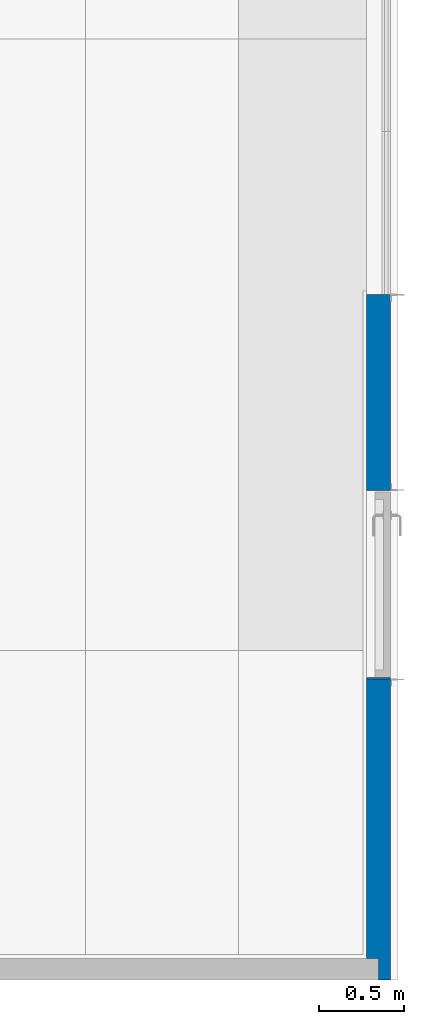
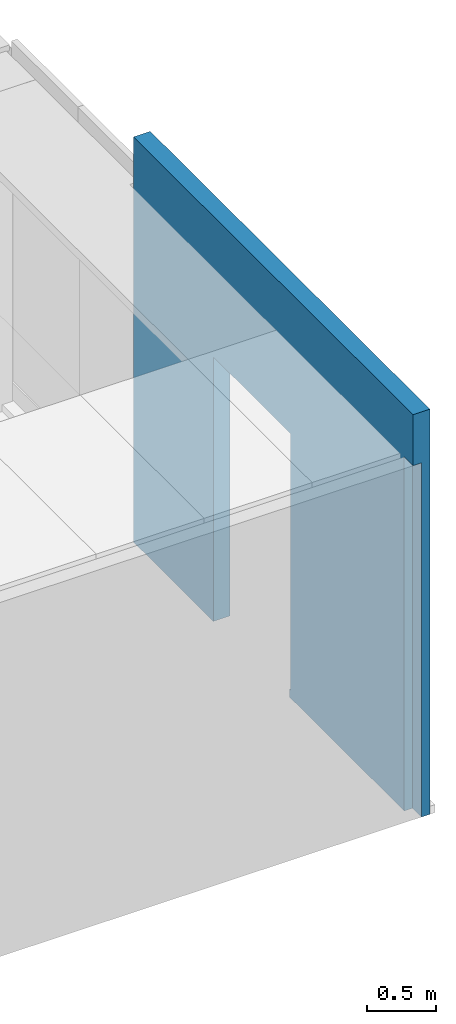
# One storey, part 9 of 12: 1 wall, 1 opening.
"""IFC2X3 building model written with IfcOpenShell, lengths in millimetres."""

from ifc_helpers import new_model, entity, si_unit, converted_unit, derived_unit, direction, frame, frame_2d, origin_with_axes, place, context, subcontext, project, spatial, rectangle, extrude, faceted_brep, material, layer, layer_set, type_object, element, save


model = new_model("IFC2X3")

# Units and contexts
model_context = context("Model", 3, precision=0.01, world=frame((0.0, 4.29681676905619e-09, 0.0)), true_north=direction((6.12323399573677e-17, 1.0)))
plan_context = context("Plan", 3, precision=0.01, world=frame((0.0, 4.29681676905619e-09, 0.0)), true_north=direction((6.12323399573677e-17, 1.0)))
body_context = subcontext(model_context, "Body", "Model", "MODEL_VIEW")
ifc_project = project(units=[converted_unit("PLANEANGLEUNIT", "DEGREE", entity("IfcPositiveLengthMeasure", 0.0174532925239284), si_unit("PLANEANGLEUNIT", "RADIAN"), dimensions=[0, 0, 0, 0, 0, 0, 0]), si_unit("AREAUNIT", "SQUARE_METRE"), si_unit("LENGTHUNIT", "METRE", prefix="MILLI"), si_unit("MASSUNIT", "GRAM", prefix="KILO"), si_unit("POWERUNIT", "WATT"), si_unit("PRESSUREUNIT", "PASCAL", prefix="KILO"), si_unit("FORCEUNIT", "NEWTON", prefix="KILO"), si_unit("ELECTRICVOLTAGEUNIT", "VOLT"), si_unit("ELECTRICCURRENTUNIT", "AMPERE"), si_unit("THERMODYNAMICTEMPERATUREUNIT", "DEGREE_CELSIUS"), si_unit("TIMEUNIT", "SECOND"), si_unit("VOLUMEUNIT", "CUBIC_METRE"), derived_unit("LINEARVELOCITYUNIT", [(si_unit("LENGTHUNIT", "METRE"), 1), (si_unit("TIMEUNIT", "SECOND"), -1)]), derived_unit("VOLUMETRICFLOWRATEUNIT", [(si_unit("VOLUMEUNIT", "CUBIC_METRE"), 1), (si_unit("TIMEUNIT", "SECOND"), -1)]), derived_unit("THERMALTRANSMITTANCEUNIT", [(si_unit("POWERUNIT", "WATT"), 1), (si_unit("THERMODYNAMICTEMPERATUREUNIT", "KELVIN"), -1), (si_unit("AREAUNIT", "SQUARE_METRE"), -1)]), derived_unit("SOUNDPRESSUREUNIT", [(si_unit("PRESSUREUNIT", "PASCAL"), 1)])], contexts=[model_context, plan_context])

# Site, building, storey
site_placement = place(None, origin_with_axes())
site = spatial("IfcSite", under=ifc_project, at=site_placement, Name="ENGM", CompositionType="ELEMENT")
building_placement = place(site_placement, origin_with_axes())
building = spatial("IfcBuilding", under=site, at=building_placement, Name="TH", CompositionType="ELEMENT")
storey_placement = place(building_placement, frame((0.0, 0.0, 210200.0), z_axis=(0.0, 0.0, 1.0), x_axis=(1.0, 0.0, 0.0)))
storey = spatial("IfcBuildingStorey", under=building, at=storey_placement, Name="Nivå F - 0,7 m", CompositionType="ELEMENT", Elevation=210200.0)

# Wall, opening
ifc_material_1 = material(Name="T2_Gips Robust")
ifc_layer_1 = layer(ifc_material_1, 12.5)
ifc_material_2 = material(Name="_NSW X-finer")
ifc_layer_2 = layer(ifc_material_2, 15.0)
ifc_material_3 = material(Name="_NSW Stålstender, uisolert")
ifc_layer_3 = layer(ifc_material_3, 100.0)
ifc_layer_4 = layer(ifc_material_1, 12.5)
ifc_layer_set = layer_set([ifc_layer_1, ifc_layer_2, ifc_layer_3, ifc_layer_4], Name="Basic Wall:A241 - RXVR-100")
wall_type = type_object("IfcWallType", Name="Basic Wall:A241 - RXVR-100", PredefinedType="STANDARD", material=ifc_layer_set)
wall_placement = place(storey_placement, frame((1130424.79984185, 462362.5, -70.0), z_axis=(0.0, 0.0, 1.0), x_axis=(0.0, 1.0, 0.0)))
wall = element("IfcWall", 1, at=wall_placement, inside=storey, type_object=wall_type, Name="Basic Wall:A241 - RXVR-100", ObjectType="Basic Wall:A241 - RXVR-100", context=body_context, shape_type="Brep", body=[
    faceted_brep([(0.0, -70.0, 70.0), (0.0, -70.0, 0.0), (1782.49532583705, -70.0, 0.0), (1782.49532583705, -70.0, 70.0), (1772.49532583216, -70.0, 70.0), (1772.49532583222, -70.0, 2330.0), (2882.49532583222, -70.0, 2330.0), (2882.49532583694, -70.0, 70.0), (2882.49532583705, -70.0, 0.0), (4037.4999999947, -70.0, 0.0), (4037.4999999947, -70.0, 70.0), (4037.4999999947, -70.0, 3570.0), (0.0, -70.0, 3570.0), (4037.4999999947, 70.0, 0.0), (2882.49532583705, 70.0, 0.0), (2882.49532583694, 70.0, 70.0), (2882.49532583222, 70.0, 2330.0), (1772.49532583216, 70.0, 2330.0), (1772.49532583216, 70.0, 70.0), (1782.49532583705, 70.0, 70.0), (1782.49532583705, 70.0, 0.0), (127.499999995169, 70.0, 0.0), (127.499999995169, 70.0, 3120.0), (0.0, 70.0, 3120.0), (0.0, 70.0, 3570.0), (4037.4999999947, 70.0, 3570.0), (0.0, 0.0, 0.0), (127.499999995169, 0.0, 0.0), (0.0, 0.0, 3120.0), (127.499999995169, 0.0, 3120.0)], [[[0, 1, 2, 3, 4, 5, 6, 7, 8, 9, 10, 11, 12]], [[13, 14, 15, 16, 17, 18, 19, 20, 21, 22, 23, 24, 25]], [[2, 1, 26, 27, 21, 20]], [[10, 9, 13, 25, 11]], [[1, 0, 12, 24, 23, 28, 26]], [[5, 4, 18, 17]], [[6, 5, 17, 16]], [[7, 6, 16, 15, 14, 8]], [[4, 3, 19, 18]], [[3, 2, 20, 19]], [[22, 21, 27, 29]], [[27, 26, 28, 29]], [[23, 22, 29, 28]], [[12, 11, 25, 24]], [[9, 8, 14, 13]]]),
])
opening_placement = place(wall_placement, frame((2882.49532583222, 70.0, 70.0), z_axis=(0.0, 0.0, 1.0), x_axis=(1.0, 0.0, 0.0)))
element("IfcOpeningElement", 2, at=opening_placement, cuts=wall, Name="A20 - Slagdør - Enkel:A243 - DI_SSO - 1090x2240 mm:1", ObjectType="Opening", context=body_context, shape_type="SweptSolid", body=[
    extrude(rectangle(XDim=2259.99999999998, YDim=1110.0, at=frame_2d((1129.99999999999, 555.000000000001), x_axis=(1.0, 0.0))), frame((0.0, 0.0, 0.0), z_axis=(0.0, -1.0, 0.0), x_axis=(0.0, 0.0, 1.0)), (0.0, 0.0, 1.0), 140.0),
])

save(model, "model.ifc")
